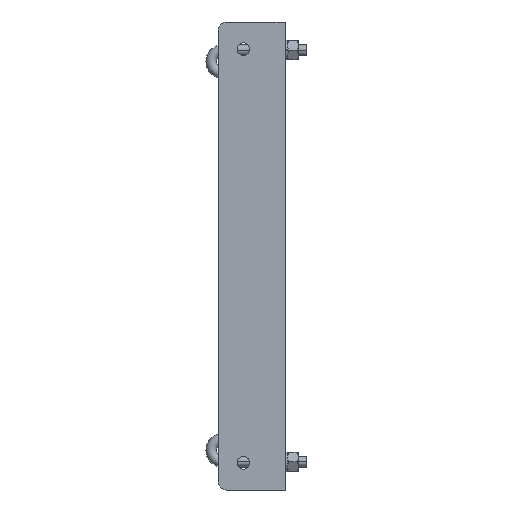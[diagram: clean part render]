
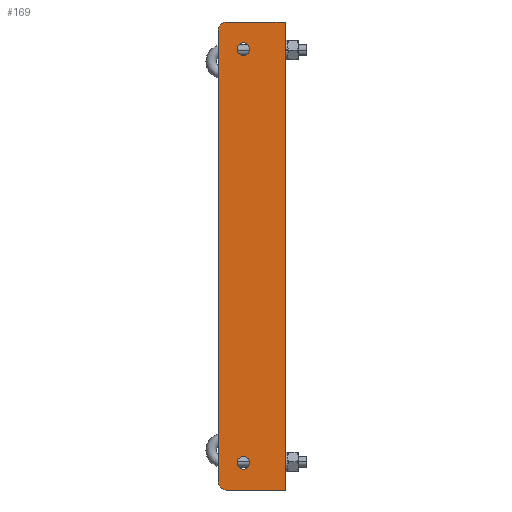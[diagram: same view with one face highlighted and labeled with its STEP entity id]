
A CAD part, left-side view. The second image highlights one B-rep face of the part: STEP entity #169.
In plain terms, the highlighted planar face has unit normal (-1, 0, 0).
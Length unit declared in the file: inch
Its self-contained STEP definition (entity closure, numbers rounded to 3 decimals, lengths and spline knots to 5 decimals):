
#90 = EDGE_LOOP ( 'NONE', ( #139, #163 ) ) ;
#91 = ORIENTED_EDGE ( 'NONE', *, *, #145, .F. ) ;
#97 = VERTEX_POINT ( 'NONE', #599 ) ;
#103 = EDGE_CURVE ( 'NONE', #107, #106, #608, .T. ) ;
#106 = VERTEX_POINT ( 'NONE', #657 ) ;
#107 = VERTEX_POINT ( 'NONE', #674 ) ;
#134 = ORIENTED_EDGE ( 'NONE', *, *, #135, .T. ) ;
#135 = EDGE_CURVE ( 'NONE', #147, #167, #701, .T. ) ;
#136 = ORIENTED_EDGE ( 'NONE', *, *, #154, .T. ) ;
#138 = EDGE_LOOP ( 'NONE', ( #91, #141 ) ) ;
#139 = ORIENTED_EDGE ( 'NONE', *, *, #162, .F. ) ;
#141 = ORIENTED_EDGE ( 'NONE', *, *, #103, .F. ) ;
#142 = EDGE_LOOP ( 'NONE', ( #143, #153, #134, #136, #156, #159 ) ) ;
#143 = ORIENTED_EDGE ( 'NONE', *, *, #164, .F. ) ;
#144 = VERTEX_POINT ( 'NONE', #697 ) ;
#145 = EDGE_CURVE ( 'NONE', #106, #107, #724, .T. ) ;
#146 = EDGE_CURVE ( 'NONE', #144, #147, #714, .T. ) ;
#147 = VERTEX_POINT ( 'NONE', #715 ) ;
#153 = ORIENTED_EDGE ( 'NONE', *, *, #146, .T. ) ;
#154 = EDGE_CURVE ( 'NONE', #167, #155, #703, .T. ) ;
#155 = VERTEX_POINT ( 'NONE', #688 ) ;
#156 = ORIENTED_EDGE ( 'NONE', *, *, #157, .F. ) ;
#157 = EDGE_CURVE ( 'NONE', #158, #155, #687, .T. ) ;
#158 = VERTEX_POINT ( 'NONE', #683 ) ;
#159 = ORIENTED_EDGE ( 'NONE', *, *, #160, .T. ) ;
#160 = EDGE_CURVE ( 'NONE', #158, #165, #731, .T. ) ;
#161 = EDGE_CURVE ( 'NONE', #97, #168, #477, .T. ) ;
#162 = EDGE_CURVE ( 'NONE', #168, #97, #753, .T. ) ;
#163 = ORIENTED_EDGE ( 'NONE', *, *, #161, .F. ) ;
#164 = EDGE_CURVE ( 'NONE', #144, #165, #743, .T. ) ;
#165 = VERTEX_POINT ( 'NONE', #755 ) ;
#167 = VERTEX_POINT ( 'NONE', #754 ) ;
#168 = VERTEX_POINT ( 'NONE', #752 ) ;
#169 = ADVANCED_FACE ( 'NONE', ( #751, #750, #749 ), #748, .T. ) ;
#470 = DIRECTION ( 'NONE',  ( 0., -1., 0. ) ) ;
#471 = DIRECTION ( 'NONE',  ( 0., 1., 0. ) ) ;
#473 = CARTESIAN_POINT ( 'NONE',  ( 0., 1.25, -13.1875 ) ) ;
#475 = DIRECTION ( 'NONE',  ( -1., 0., 0. ) ) ;
#477 = CIRCLE ( 'NONE', #481, 0.1875 ) ;
#479 = CARTESIAN_POINT ( 'NONE',  ( 0., 1.25, -0.8125 ) ) ;
#481 = AXIS2_PLACEMENT_3D ( 'NONE', #479, #483, #470 ) ;
#483 = DIRECTION ( 'NONE',  ( -1., 0., 0. ) ) ;
#599 = CARTESIAN_POINT ( 'NONE',  ( 0., 1.4375, -0.8125 ) ) ;
#607 = AXIS2_PLACEMENT_3D ( 'NONE', #473, #475, #471 ) ;
#608 = CIRCLE ( 'NONE', #607, 0.1875 ) ;
#657 = CARTESIAN_POINT ( 'NONE',  ( 0., 1.0625, -13.1875 ) ) ;
#674 = CARTESIAN_POINT ( 'NONE',  ( 0., 1.4375, -13.1875 ) ) ;
#683 = CARTESIAN_POINT ( 'NONE',  ( 0., 1.75, 0. ) ) ;
#684 = DIRECTION ( 'NONE',  ( 0., -1., 0. ) ) ;
#685 = VECTOR ( 'NONE', #684, 39.37008 ) ;
#686 = CARTESIAN_POINT ( 'NONE',  ( 0., 2., 0. ) ) ;
#687 = LINE ( 'NONE', #686, #685 ) ;
#688 = CARTESIAN_POINT ( 'NONE',  ( 0., 0., 0. ) ) ;
#689 = DIRECTION ( 'NONE',  ( 0., 0., 1. ) ) ;
#690 = VECTOR ( 'NONE', #689, 39.37008 ) ;
#691 = CARTESIAN_POINT ( 'NONE',  ( 0., 0., -14. ) ) ;
#694 = DIRECTION ( 'NONE',  ( 0., -1., 0. ) ) ;
#695 = DIRECTION ( 'NONE',  ( -1., 0., 0. ) ) ;
#697 = CARTESIAN_POINT ( 'NONE',  ( 0., 2., -13.75 ) ) ;
#698 = VECTOR ( 'NONE', #699, 39.37008 ) ;
#699 = DIRECTION ( 'NONE',  ( 0., -1., 0. ) ) ;
#700 = CARTESIAN_POINT ( 'NONE',  ( 0., 2., -14. ) ) ;
#701 = LINE ( 'NONE', #700, #698 ) ;
#703 = LINE ( 'NONE', #691, #690 ) ;
#712 = CARTESIAN_POINT ( 'NONE',  ( 0., 1.75, -13.75 ) ) ;
#713 = AXIS2_PLACEMENT_3D ( 'NONE', #712, #695, #694 ) ;
#714 = CIRCLE ( 'NONE', #713, 0.25 ) ;
#715 = CARTESIAN_POINT ( 'NONE',  ( 0., 1.75, -14. ) ) ;
#720 = DIRECTION ( 'NONE',  ( 0., 1., 0. ) ) ;
#721 = DIRECTION ( 'NONE',  ( -1., 0., 0. ) ) ;
#722 = CARTESIAN_POINT ( 'NONE',  ( 0., 1.25, -13.1875 ) ) ;
#723 = AXIS2_PLACEMENT_3D ( 'NONE', #722, #721, #720 ) ;
#724 = CIRCLE ( 'NONE', #723, 0.1875 ) ;
#727 = DIRECTION ( 'NONE',  ( 0., -1., 0. ) ) ;
#728 = DIRECTION ( 'NONE',  ( -1., 0., 0. ) ) ;
#729 = CARTESIAN_POINT ( 'NONE',  ( 0., 1.75, -0.25 ) ) ;
#730 = AXIS2_PLACEMENT_3D ( 'NONE', #729, #728, #727 ) ;
#731 = CIRCLE ( 'NONE', #730, 0.25 ) ;
#742 = CARTESIAN_POINT ( 'NONE',  ( 0., 1.25, -0.8125 ) ) ;
#743 = LINE ( 'NONE', #758, #757 ) ;
#744 = DIRECTION ( 'NONE',  ( 0., -1., 0. ) ) ;
#745 = DIRECTION ( 'NONE',  ( -1., 0., 0. ) ) ;
#746 = CARTESIAN_POINT ( 'NONE',  ( 0., 2., -14. ) ) ;
#747 = AXIS2_PLACEMENT_3D ( 'NONE', #746, #745, #744 ) ;
#748 = PLANE ( 'NONE',  #747 ) ;
#749 = FACE_OUTER_BOUND ( 'NONE', #142, .T. ) ;
#750 = FACE_BOUND ( 'NONE', #90, .T. ) ;
#751 = FACE_BOUND ( 'NONE', #138, .T. ) ;
#752 = CARTESIAN_POINT ( 'NONE',  ( 0., 1.0625, -0.8125 ) ) ;
#753 = CIRCLE ( 'NONE', #782, 0.1875 ) ;
#754 = CARTESIAN_POINT ( 'NONE',  ( 0., 0., -14. ) ) ;
#755 = CARTESIAN_POINT ( 'NONE',  ( 0., 2., -0.25 ) ) ;
#756 = DIRECTION ( 'NONE',  ( 0., 0., 1. ) ) ;
#757 = VECTOR ( 'NONE', #756, 39.37008 ) ;
#758 = CARTESIAN_POINT ( 'NONE',  ( 0., 2., -14. ) ) ;
#759 = DIRECTION ( 'NONE',  ( 0., -1., 0. ) ) ;
#781 = DIRECTION ( 'NONE',  ( -1., 0., 0. ) ) ;
#782 = AXIS2_PLACEMENT_3D ( 'NONE', #742, #781, #759 ) ;
